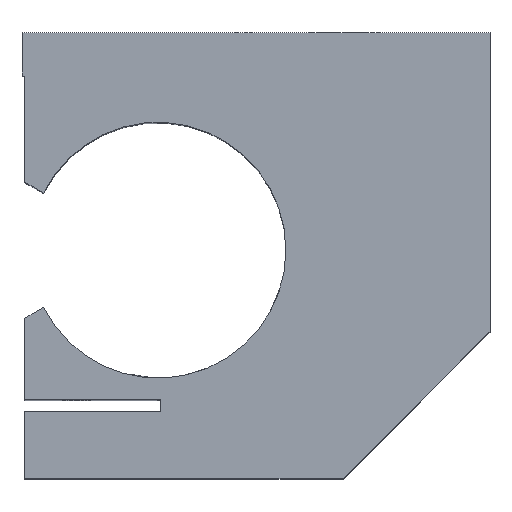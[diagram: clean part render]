
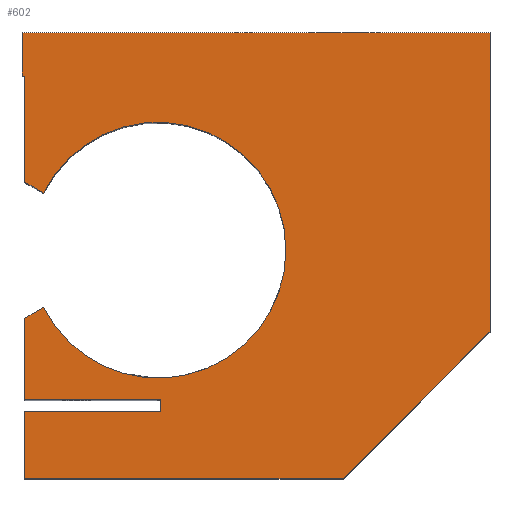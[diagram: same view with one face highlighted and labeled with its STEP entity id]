
A CAD part, top view. The second image highlights one B-rep face of the part: STEP entity #602.
In plain terms, the highlighted planar face has unit normal (0, 0, 1).
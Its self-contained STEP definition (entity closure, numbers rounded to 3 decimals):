
#6 = CARTESIAN_POINT ( 'NONE',  ( -17.5, -26.5, 39.5 ) ) ;
#16 = DIRECTION ( 'NONE',  ( 0., 0., 1. ) ) ;
#26 = ORIENTED_EDGE ( 'NONE', *, *, #1590, .T. ) ;
#45 = ORIENTED_EDGE ( 'NONE', *, *, #678, .F. ) ;
#60 = LINE ( 'NONE', #576, #1246 ) ;
#69 = CIRCLE ( 'NONE', #896, 23.5 ) ;
#92 = CARTESIAN_POINT ( 'NONE',  ( -17.5, -28.65, 39.5 ) ) ;
#96 = VERTEX_POINT ( 'NONE', #942 ) ;
#109 = EDGE_CURVE ( 'NONE', #335, #632, #536, .T. ) ;
#114 = DIRECTION ( 'NONE',  ( 1., 0., 0. ) ) ;
#131 = ORIENTED_EDGE ( 'NONE', *, *, #395, .T. ) ;
#132 = CARTESIAN_POINT ( 'NONE',  ( -43., -41., 39.5 ) ) ;
#146 = CARTESIAN_POINT ( 'NONE',  ( -42.5, 33., 39.5 ) ) ;
#149 = VECTOR ( 'NONE', #879, 1000. ) ;
#172 = ORIENTED_EDGE ( 'NONE', *, *, #109, .F. ) ;
#184 = CARTESIAN_POINT ( 'NONE',  ( 16., -41., 39.5 ) ) ;
#192 = EDGE_CURVE ( 'NONE', #632, #1473, #1518, .T. ) ;
#208 = VERTEX_POINT ( 'NONE', #701 ) ;
#222 = DIRECTION ( 'NONE',  ( -0.866, 0.5, 0. ) ) ;
#235 = ORIENTED_EDGE ( 'NONE', *, *, #1050, .F. ) ;
#257 = VERTEX_POINT ( 'NONE', #184 ) ;
#259 = VECTOR ( 'NONE', #1559, 1000. ) ;
#260 = VECTOR ( 'NONE', #1077, 1000. ) ;
#270 = CARTESIAN_POINT ( 'NONE',  ( -39.024, -9.5, 39.5 ) ) ;
#286 = PLANE ( 'NONE',  #983 ) ;
#294 = CARTESIAN_POINT ( 'NONE',  ( -39.024, 11.5, 39.5 ) ) ;
#295 = VERTEX_POINT ( 'NONE', #1239 ) ;
#298 = DIRECTION ( 'NONE',  ( 0., 0., 1. ) ) ;
#302 = FACE_OUTER_BOUND ( 'NONE', #314, .T. ) ;
#310 = EDGE_CURVE ( 'NONE', #295, #776, #60, .T. ) ;
#314 = EDGE_LOOP ( 'NONE', ( #1266, #172, #1557, #811, #974, #906, #1393, #843, #235, #1613, #45, #131, #750, #680, #615, #26 ) ) ;
#335 = VERTEX_POINT ( 'NONE', #947 ) ;
#343 = DIRECTION ( 'NONE',  ( 0., 1., 0. ) ) ;
#366 = EDGE_CURVE ( 'NONE', #1226, #738, #624, .T. ) ;
#385 = DIRECTION ( 'NONE',  ( 0., 1., 0. ) ) ;
#387 = CARTESIAN_POINT ( 'NONE',  ( -17.5, -28.65, 39.5 ) ) ;
#395 = EDGE_CURVE ( 'NONE', #96, #257, #1715, .T. ) ;
#459 = CARTESIAN_POINT ( 'NONE',  ( -17.5, -26.5, 39.5 ) ) ;
#470 = CARTESIAN_POINT ( 'NONE',  ( -18., 1., 39.5 ) ) ;
#487 = VECTOR ( 'NONE', #598, 1000. ) ;
#504 = VECTOR ( 'NONE', #783, 1000. ) ;
#509 = EDGE_CURVE ( 'NONE', #1191, #208, #1174, .T. ) ;
#536 = LINE ( 'NONE', #1599, #1084 ) ;
#545 = CARTESIAN_POINT ( 'NONE',  ( 43., -14., 39.5 ) ) ;
#576 = CARTESIAN_POINT ( 'NONE',  ( -43., 41., 39.5 ) ) ;
#592 = LINE ( 'NONE', #1209, #927 ) ;
#598 = DIRECTION ( 'NONE',  ( 0., -1., 0. ) ) ;
#602 = ADVANCED_FACE ( 'NONE', ( #302 ), #286, .T. ) ;
#615 = ORIENTED_EDGE ( 'NONE', *, *, #310, .T. ) ;
#624 = CIRCLE ( 'NONE', #953, 23.5 ) ;
#632 = VERTEX_POINT ( 'NONE', #146 ) ;
#634 = VERTEX_POINT ( 'NONE', #545 ) ;
#678 = EDGE_CURVE ( 'NONE', #96, #208, #979, .T. ) ;
#680 = ORIENTED_EDGE ( 'NONE', *, *, #898, .T. ) ;
#688 = VERTEX_POINT ( 'NONE', #1497 ) ;
#701 = CARTESIAN_POINT ( 'NONE',  ( -42.5, -28.65, 39.5 ) ) ;
#702 = CARTESIAN_POINT ( 'NONE',  ( 5.5, 1., 39.5 ) ) ;
#704 = CARTESIAN_POINT ( 'NONE',  ( 0., 0., 39.5 ) ) ;
#705 = VECTOR ( 'NONE', #343, 1000. ) ;
#732 = VECTOR ( 'NONE', #114, 1000. ) ;
#738 = VERTEX_POINT ( 'NONE', #702 ) ;
#750 = ORIENTED_EDGE ( 'NONE', *, *, #770, .T. ) ;
#770 = EDGE_CURVE ( 'NONE', #257, #634, #592, .T. ) ;
#776 = VERTEX_POINT ( 'NONE', #971 ) ;
#783 = DIRECTION ( 'NONE',  ( -1., 0., 0. ) ) ;
#811 = ORIENTED_EDGE ( 'NONE', *, *, #1039, .F. ) ;
#841 = VECTOR ( 'NONE', #1496, 1000. ) ;
#843 = ORIENTED_EDGE ( 'NONE', *, *, #1269, .F. ) ;
#862 = EDGE_CURVE ( 'NONE', #1322, #335, #1533, .T. ) ;
#876 = LINE ( 'NONE', #1227, #487 ) ;
#879 = DIRECTION ( 'NONE',  ( 0., 1., 0. ) ) ;
#893 = VERTEX_POINT ( 'NONE', #1144 ) ;
#896 = AXIS2_PLACEMENT_3D ( 'NONE', #470, #987, #1117 ) ;
#898 = EDGE_CURVE ( 'NONE', #634, #295, #1680, .T. ) ;
#906 = ORIENTED_EDGE ( 'NONE', *, *, #1150, .F. ) ;
#923 = LINE ( 'NONE', #6, #260 ) ;
#927 = VECTOR ( 'NONE', #1118, 1000. ) ;
#942 = CARTESIAN_POINT ( 'NONE',  ( -42.5, -41., 39.5 ) ) ;
#947 = CARTESIAN_POINT ( 'NONE',  ( -42.5, 13.507, 39.5 ) ) ;
#953 = AXIS2_PLACEMENT_3D ( 'NONE', #1202, #298, #1467 ) ;
#971 = CARTESIAN_POINT ( 'NONE',  ( -43., 41., 39.5 ) ) ;
#974 = ORIENTED_EDGE ( 'NONE', *, *, #366, .F. ) ;
#979 = LINE ( 'NONE', #1000, #1111 ) ;
#983 = AXIS2_PLACEMENT_3D ( 'NONE', #704, #16, #1471 ) ;
#987 = DIRECTION ( 'NONE',  ( 0., 0., 1. ) ) ;
#1000 = CARTESIAN_POINT ( 'NONE',  ( -42.5, 33., 39.5 ) ) ;
#1039 = EDGE_CURVE ( 'NONE', #738, #1322, #69, .T. ) ;
#1041 = CARTESIAN_POINT ( 'NONE',  ( -43., -11.796, 39.5 ) ) ;
#1050 = EDGE_CURVE ( 'NONE', #1191, #688, #1107, .T. ) ;
#1077 = DIRECTION ( 'NONE',  ( -1., 0., 0. ) ) ;
#1084 = VECTOR ( 'NONE', #385, 1000. ) ;
#1100 = DIRECTION ( 'NONE',  ( -1., 0., 0. ) ) ;
#1107 = LINE ( 'NONE', #459, #149 ) ;
#1111 = VECTOR ( 'NONE', #1519, 1000. ) ;
#1117 = DIRECTION ( 'NONE',  ( 1., 0., 0. ) ) ;
#1118 = DIRECTION ( 'NONE',  ( 0.707, 0.707, 0. ) ) ;
#1125 = CARTESIAN_POINT ( 'NONE',  ( 43., 41., 39.5 ) ) ;
#1136 = CARTESIAN_POINT ( 'NONE',  ( -43., 33., 39.5 ) ) ;
#1144 = CARTESIAN_POINT ( 'NONE',  ( -42.5, -11.507, 39.5 ) ) ;
#1150 = EDGE_CURVE ( 'NONE', #893, #1226, #1691, .T. ) ;
#1154 = CARTESIAN_POINT ( 'NONE',  ( -42.5, 33., 39.5 ) ) ;
#1174 = LINE ( 'NONE', #387, #504 ) ;
#1191 = VERTEX_POINT ( 'NONE', #92 ) ;
#1202 = CARTESIAN_POINT ( 'NONE',  ( -18., 1., 39.5 ) ) ;
#1209 = CARTESIAN_POINT ( 'NONE',  ( 28.5, -28.5, 39.5 ) ) ;
#1226 = VERTEX_POINT ( 'NONE', #270 ) ;
#1227 = CARTESIAN_POINT ( 'NONE',  ( -43., 41., 39.5 ) ) ;
#1239 = CARTESIAN_POINT ( 'NONE',  ( 43., 41., 39.5 ) ) ;
#1246 = VECTOR ( 'NONE', #1100, 1000. ) ;
#1266 = ORIENTED_EDGE ( 'NONE', *, *, #192, .F. ) ;
#1269 = EDGE_CURVE ( 'NONE', #688, #1504, #923, .T. ) ;
#1322 = VERTEX_POINT ( 'NONE', #294 ) ;
#1353 = CARTESIAN_POINT ( 'NONE',  ( -42.5, 33., 39.5 ) ) ;
#1393 = ORIENTED_EDGE ( 'NONE', *, *, #1472, .F. ) ;
#1414 = VECTOR ( 'NONE', #1671, 1000. ) ;
#1467 = DIRECTION ( 'NONE',  ( 1., 0., 0. ) ) ;
#1471 = DIRECTION ( 'NONE',  ( 1., 0., 0. ) ) ;
#1472 = EDGE_CURVE ( 'NONE', #1504, #893, #1665, .T. ) ;
#1473 = VERTEX_POINT ( 'NONE', #1136 ) ;
#1485 = CARTESIAN_POINT ( 'NONE',  ( -42.5, -26.5, 39.5 ) ) ;
#1496 = DIRECTION ( 'NONE',  ( -1., 0., 0. ) ) ;
#1497 = CARTESIAN_POINT ( 'NONE',  ( -17.5, -26.5, 39.5 ) ) ;
#1504 = VERTEX_POINT ( 'NONE', #1485 ) ;
#1518 = LINE ( 'NONE', #1353, #841 ) ;
#1519 = DIRECTION ( 'NONE',  ( 0., 1., 0. ) ) ;
#1525 = CARTESIAN_POINT ( 'NONE',  ( -39.024, 11.5, 39.5 ) ) ;
#1533 = LINE ( 'NONE', #1525, #1634 ) ;
#1557 = ORIENTED_EDGE ( 'NONE', *, *, #862, .F. ) ;
#1559 = DIRECTION ( 'NONE',  ( 0.866, 0.5, 0. ) ) ;
#1590 = EDGE_CURVE ( 'NONE', #776, #1473, #876, .T. ) ;
#1599 = CARTESIAN_POINT ( 'NONE',  ( -42.5, 33., 39.5 ) ) ;
#1613 = ORIENTED_EDGE ( 'NONE', *, *, #509, .T. ) ;
#1634 = VECTOR ( 'NONE', #222, 1000. ) ;
#1665 = LINE ( 'NONE', #1154, #705 ) ;
#1671 = DIRECTION ( 'NONE',  ( 0., 1., 0. ) ) ;
#1680 = LINE ( 'NONE', #1125, #1414 ) ;
#1691 = LINE ( 'NONE', #1041, #259 ) ;
#1715 = LINE ( 'NONE', #132, #732 ) ;
